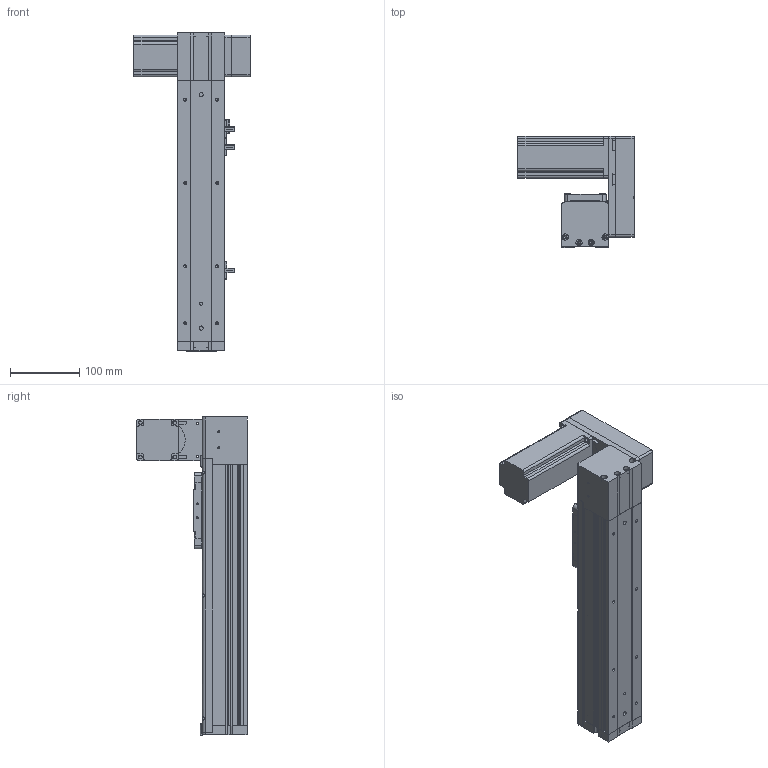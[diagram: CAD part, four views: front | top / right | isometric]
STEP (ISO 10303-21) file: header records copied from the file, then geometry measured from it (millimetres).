
FILE_DESCRIPTION (( 'STEP AP214' ), '1' );
FILE_NAME ('KSD68BS-S200-MLU-CR.STEP', '2019-08-27T07:53:43', ( '微软用户' ), ( '微软中国' ), 'SwSTEP 2.0', 'SolidWorks 2014', '' );
FILE_SCHEMA (( 'AUTOMOTIVE_DESIGN' ));
Length unit declared in the file: millimetre
Products named in the file (14): KSD68BS 200行程盖板全封闭; 68遵裔啣揤啣1; 68宽单导轨全封闭丝杆传动安装板1防护罩; KSD68BS 200行程侧板全封闭; 68宽单导轨全封闭同步带端板; 68单导轨全封闭同步带电机座左; 68单导轨全封闭同步带安装板; 悵誘欶奻狟殏; 68宽马达安装板连板上折同步带; 感应片68宽全封闭; U倰嫖萇EEㄜSX672; 台达ECMA－C20604AS伺服电机（400W); KSD68BS 200行程底板全封闭; KSD68BS-S200-MLU-CR
Assembly tree (17 placements, depth 2):
  KSD68BS-S200-MLU-CR
    KSD68BS 200行程底板全封闭
    台达ECMA－C20604AS伺服电机（400W)
    U倰嫖萇EEㄜSX672  x3
    感应片68宽全封闭
    68宽马达安装板连板上折同步带
    悵誘欶奻狟殏
    68单导轨全封闭同步带安装板
    68单导轨全封闭同步带电机座左
    68宽单导轨全封闭同步带端板
    KSD68BS 200行程侧板全封闭  x2
    68宽单导轨全封闭丝杆传动安装板1防护罩
    68遵裔啣揤啣1  x2
    KSD68BS 200行程盖板全封闭
Bounding box: 167.2 x 159.5 x 458.1 mm (x, y, z)
Volume: 1459485.4 mm3; surface area: 462818.2 mm2
Topology: 18 solids, 18 shells, 1345 faces, 3767 edges, 2426 vertices
Faces by surface type: plane 621, cylinder 596, cone 128
Entity records: 41143 total; most frequent: CARTESIAN_POINT 6925, DIRECTION 6238, ORIENTED_EDGE 5986, EDGE_CURVE 2993, AXIS2_PLACEMENT_3D 2207, VERTEX_POINT 1964, VECTOR 1824, LINE 1824
